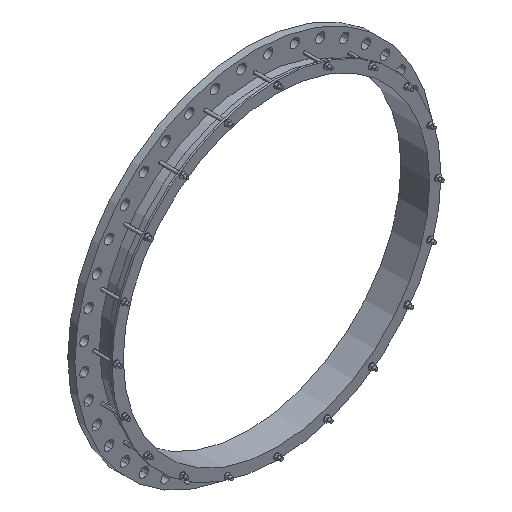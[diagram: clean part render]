
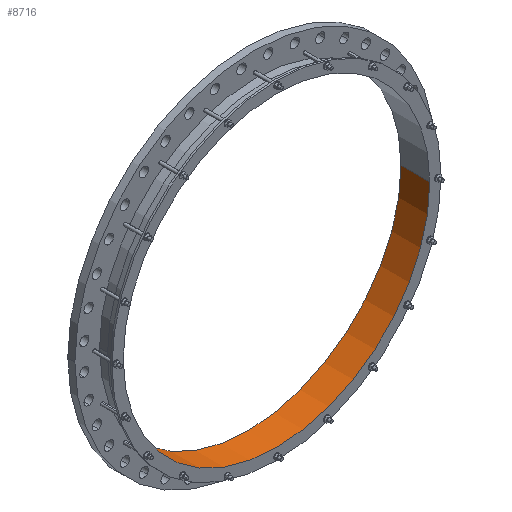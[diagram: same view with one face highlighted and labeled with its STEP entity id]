
A CAD part, isometric view. The second image highlights one B-rep face of the part: STEP entity #8716.
In plain terms, the highlighted cylindrical face has radius 815.25 mm (diameter 1630.5 mm), a partial arc.
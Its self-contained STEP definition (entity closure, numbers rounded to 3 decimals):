
#7=CARTESIAN_POINT('',(0.,38.,0.));
#8=DIRECTION('',(0.,1.,0.));
#9=DIRECTION('',(1.,0.,0.));
#10=AXIS2_PLACEMENT_3D('',#7,#8,#9);
#2379=CARTESIAN_POINT('',(0.,-115.,0.));
#2380=DIRECTION('',(0.,1.,0.));
#2381=DIRECTION('',(1.,0.,0.));
#2382=AXIS2_PLACEMENT_3D('',#2379,#2380,#2381);
#2384=DIRECTION('',(0.,1.,0.));
#2385=VECTOR('',#2384,153.);
#2386=CARTESIAN_POINT('',(815.25,-115.,0.));
#2387=LINE('',#2386,#2385);
#2388=DIRECTION('',(0.,1.,0.));
#2389=VECTOR('',#2388,153.);
#2390=CARTESIAN_POINT('',(-815.25,-115.,0.));
#2391=LINE('',#2390,#2389);
#6128=CARTESIAN_POINT('',(815.25,-115.,0.));
#6129=CARTESIAN_POINT('',(815.25,38.,0.));
#6130=VERTEX_POINT('',#6128);
#6131=VERTEX_POINT('',#6129);
#6140=CARTESIAN_POINT('',(-815.25,-115.,0.));
#6141=CARTESIAN_POINT('',(-815.25,38.,0.));
#6142=VERTEX_POINT('',#6140);
#6143=VERTEX_POINT('',#6141);
#8703=CARTESIAN_POINT('',(0.,-122.65,0.));
#8704=DIRECTION('',(0.,1.,0.));
#8705=DIRECTION('',(-1.,0.,0.));
#8706=AXIS2_PLACEMENT_3D('',#8703,#8704,#8705);
#8707=CYLINDRICAL_SURFACE('',#8706,815.25);
#8709=ORIENTED_EDGE('',*,*,#8708,.F.);
#8710=ORIENTED_EDGE('',*,*,#8578,.T.);
#8712=ORIENTED_EDGE('',*,*,#8711,.T.);
#8713=ORIENTED_EDGE('',*,*,#7497,.F.);
#8714=EDGE_LOOP('',(#8709,#8710,#8712,#8713));
#8715=FACE_OUTER_BOUND('',#8714,.F.);
#8716=ADVANCED_FACE('',(#8715),#8707,.F.);
#11=CIRCLE('',#10,815.25);
#2383=CIRCLE('',#2382,815.25);
#7497=EDGE_CURVE('',#6131,#6143,#11,.T.);
#8578=EDGE_CURVE('',#6130,#6142,#2383,.T.);
#8708=EDGE_CURVE('',#6130,#6131,#2387,.T.);
#8711=EDGE_CURVE('',#6142,#6143,#2391,.T.);
